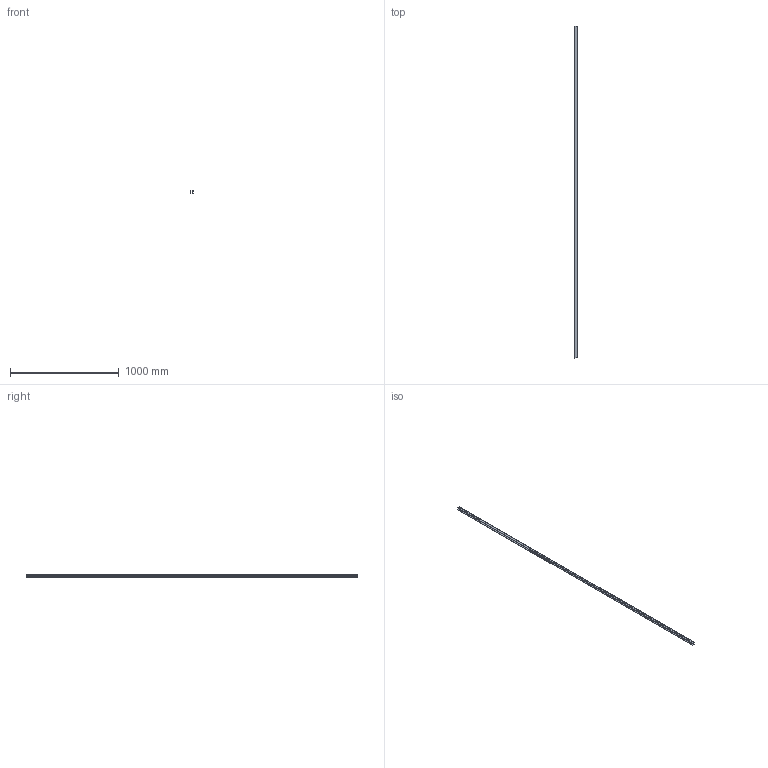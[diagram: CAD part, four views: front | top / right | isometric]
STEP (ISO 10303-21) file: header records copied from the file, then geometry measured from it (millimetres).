
FILE_DESCRIPTION(/* description */ (''),/* implementation_level */ '2;1');
FILE_NAME(/* name */ 'C:\Users\Utilisateur\Documents\Développement Profilés-Moulures\Board & Batten\Fichiers STEP\Moulures\STEP\Fichiers STEP (Cahier de moulures)\Capping.stp',/* time_stamp */ '2022-05-19T18:19:40-04:00',/* author */ ('Utilisateur'),/* organization */ (''),/* preprocessor_version */ 'ST-DEVELOPER v18.1',/* originating_system */ 'Autodesk Inventor 2021',/* authorisation */ '');
FILE_SCHEMA (('AUTOMOTIVE_DESIGN { 1 0 10303 214 3 1 1 }'));
Length unit declared in the file: inch
Products named in the file (1): Capping
Bounding box: 24.04 x 3048 x 22.48 mm (x, y, z)
Volume: 158791.6 mm3; surface area: 628371 mm2
Topology: 1 solids, 1 shells, 22 faces, 60 edges, 40 vertices
Faces by surface type: plane 14, cylinder 8
Entity records: 743 total; most frequent: CARTESIAN_POINT 123, DIRECTION 122, ORIENTED_EDGE 120, EDGE_CURVE 60, LINE 44, VECTOR 44, VERTEX_POINT 40, AXIS2_PLACEMENT_3D 39
